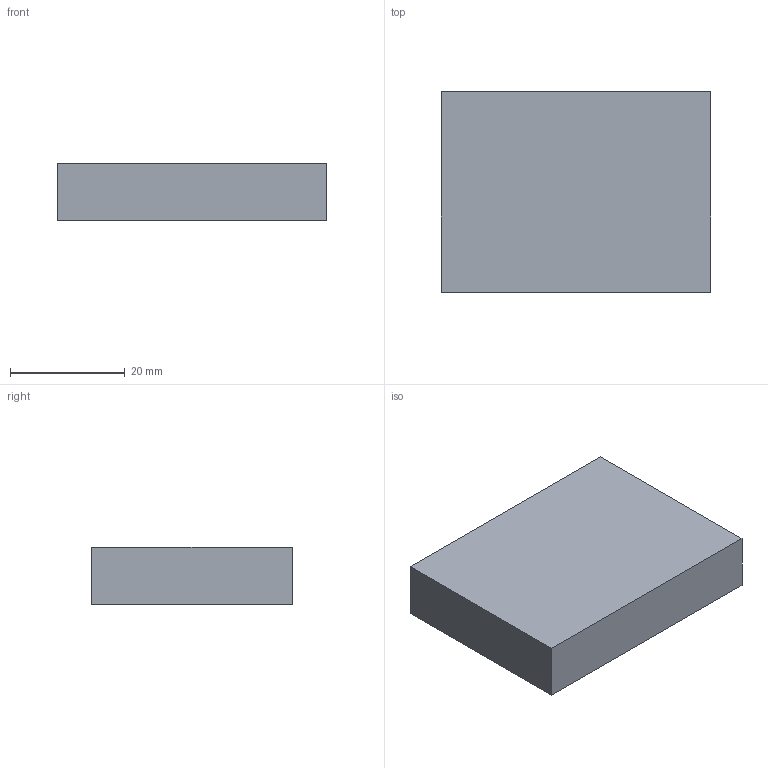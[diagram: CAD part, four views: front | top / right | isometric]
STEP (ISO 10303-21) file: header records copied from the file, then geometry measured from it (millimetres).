
FILE_DESCRIPTION (( 'STEP AP203' ), '1' );
FILE_NAME ('v4v3v2Proto_170_pinos.STEP', '2026-08-19T20:49:51', ( '' ), ( '' ), 'SwSTEP 2.0', 'SolidWorks 2024', '' );
FILE_SCHEMA (( 'CONFIG_CONTROL_DESIGN' ));
Length unit declared in the file: millimetre
Products named in the file (1): v4v3v2Proto_170_pinos
Bounding box: 47 x 35 x 10 mm (x, y, z)
Volume: 16450 mm3; surface area: 4930 mm2
Topology: 1 solids, 1 shells, 6 faces, 12 edges, 8 vertices
Faces by surface type: plane 6
Entity records: 231 total; most frequent: CARTESIAN_POINT 27, DIRECTION 26, ORIENTED_EDGE 24, EDGE_CURVE 12, LINE 12, VECTOR 12, VERTEX_POINT 8, PERSON_AND_ORGANIZATION 8
